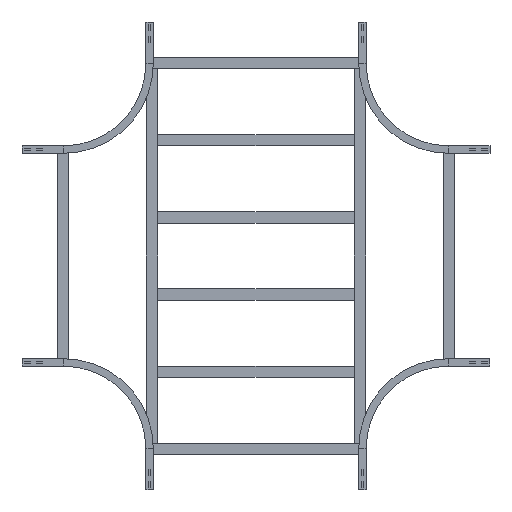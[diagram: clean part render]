
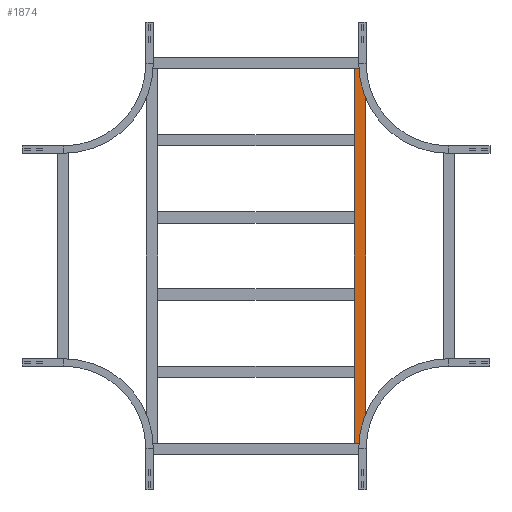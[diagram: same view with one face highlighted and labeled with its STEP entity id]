
A CAD part, front view. The second image highlights one B-rep face of the part: STEP entity #1874.
In plain terms, the highlighted planar face has unit normal (0, -1, 0).
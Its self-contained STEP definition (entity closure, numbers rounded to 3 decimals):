
#6 = CARTESIAN_POINT ( 'NONE',  ( 679.75, 0., -20.25 ) ) ;
#52 = CARTESIAN_POINT ( 'NONE',  ( -679.75, 0., 20.25 ) ) ;
#56 = CARTESIAN_POINT ( 'NONE',  ( -679.75, 0., -20.25 ) ) ;
#216 = VECTOR ( 'NONE', #1725, 1000. ) ;
#310 = VECTOR ( 'NONE', #2321, 1000. ) ;
#402 = ORIENTED_EDGE ( 'NONE', *, *, #1618, .F. ) ;
#694 = EDGE_CURVE ( 'NONE', #776, #781, #1130, .T. ) ;
#746 = PLANE ( 'NONE',  #2368 ) ;
#776 = VERTEX_POINT ( 'NONE', #1745 ) ;
#781 = VERTEX_POINT ( 'NONE', #52 ) ;
#782 = LINE ( 'NONE', #1380, #1955 ) ;
#916 = CARTESIAN_POINT ( 'NONE',  ( 679.75, 0., 20.25 ) ) ;
#997 = LINE ( 'NONE', #2157, #216 ) ;
#1098 = CARTESIAN_POINT ( 'NONE',  ( 679.75, 0., 20.25 ) ) ;
#1122 = CARTESIAN_POINT ( 'NONE',  ( -679.75, 0., 20.25 ) ) ;
#1130 = LINE ( 'NONE', #916, #1280 ) ;
#1280 = VECTOR ( 'NONE', #1872, 1000. ) ;
#1366 = DIRECTION ( 'NONE',  ( 0., 0., -1. ) ) ;
#1379 = ORIENTED_EDGE ( 'NONE', *, *, #694, .T. ) ;
#1380 = CARTESIAN_POINT ( 'NONE',  ( 679.75, 0., 20.25 ) ) ;
#1474 = DIRECTION ( 'NONE',  ( 0., 0., 1. ) ) ;
#1562 = ORIENTED_EDGE ( 'NONE', *, *, #1617, .F. ) ;
#1617 = EDGE_CURVE ( 'NONE', #776, #2277, #782, .T. ) ;
#1618 = EDGE_CURVE ( 'NONE', #2277, #1743, #997, .T. ) ;
#1725 = DIRECTION ( 'NONE',  ( -1., 0., 0. ) ) ;
#1736 = LINE ( 'NONE', #1122, #310 ) ;
#1743 = VERTEX_POINT ( 'NONE', #56 ) ;
#1745 = CARTESIAN_POINT ( 'NONE',  ( 679.75, 0., 20.25 ) ) ;
#1872 = DIRECTION ( 'NONE',  ( -1., 0., 0. ) ) ;
#1874 = ADVANCED_FACE ( 'NONE', ( #2386 ), #746, .F. ) ;
#1955 = VECTOR ( 'NONE', #1366, 1000. ) ;
#2051 = ORIENTED_EDGE ( 'NONE', *, *, #2259, .T. ) ;
#2052 = DIRECTION ( 'NONE',  ( 0., 1., 0. ) ) ;
#2157 = CARTESIAN_POINT ( 'NONE',  ( 679.75, 0., -20.25 ) ) ;
#2259 = EDGE_CURVE ( 'NONE', #781, #1743, #1736, .T. ) ;
#2277 = VERTEX_POINT ( 'NONE', #6 ) ;
#2321 = DIRECTION ( 'NONE',  ( 0., 0., -1. ) ) ;
#2368 = AXIS2_PLACEMENT_3D ( 'NONE', #1098, #2052, #1474 ) ;
#2386 = FACE_OUTER_BOUND ( 'NONE', #2408, .T. ) ;
#2408 = EDGE_LOOP ( 'NONE', ( #2051, #402, #1562, #1379 ) ) ;
